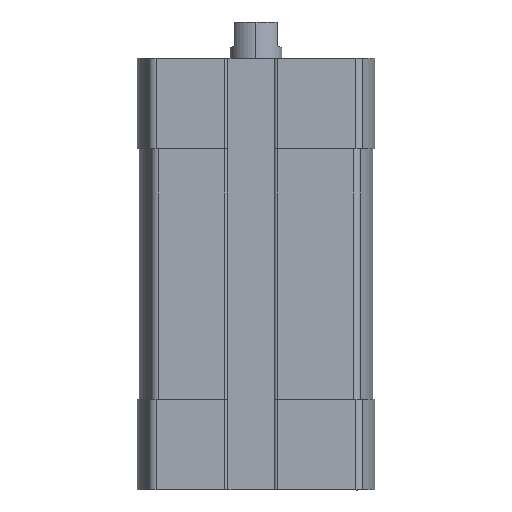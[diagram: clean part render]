
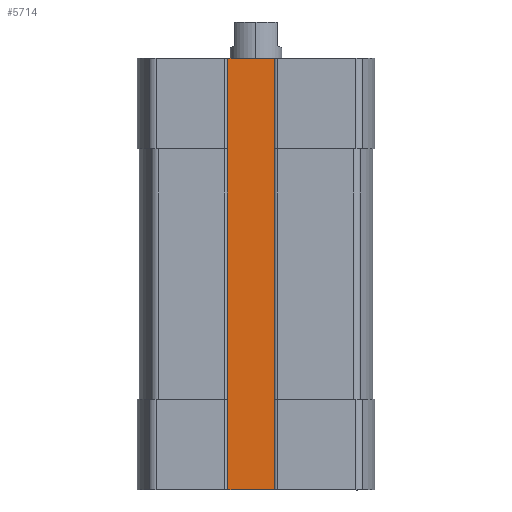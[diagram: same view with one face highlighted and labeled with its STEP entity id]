
A CAD part, left-side view. The second image highlights one B-rep face of the part: STEP entity #5714.
In plain terms, the highlighted planar face has unit normal (-1, 0, 0).
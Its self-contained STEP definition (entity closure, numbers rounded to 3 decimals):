
#193 = ORIENTED_EDGE ( 'NONE', *, *, #5346, .T. ) ;
#544 = DIRECTION ( 'NONE',  ( 0., 0., -1. ) ) ;
#912 = LINE ( 'NONE', #11198, #5379 ) ;
#1707 = EDGE_CURVE ( 'NONE', #9242, #4458, #912, .T. ) ;
#1744 = PLANE ( 'NONE',  #7921 ) ;
#1999 = LINE ( 'NONE', #2174, #6448 ) ;
#2174 = CARTESIAN_POINT ( 'NONE',  ( -8.3, 3.6, -50. ) ) ;
#3023 = LINE ( 'NONE', #6442, #7449 ) ;
#3551 = DIRECTION ( 'NONE',  ( 0., 0., 1. ) ) ;
#4169 = CARTESIAN_POINT ( 'NONE',  ( -8.3, 3.6, 0. ) ) ;
#4458 = VERTEX_POINT ( 'NONE', #5629 ) ;
#4673 = FACE_OUTER_BOUND ( 'NONE', #8105, .T. ) ;
#4725 = EDGE_CURVE ( 'NONE', #9242, #10023, #5247, .T. ) ;
#4985 = VERTEX_POINT ( 'NONE', #6200 ) ;
#5247 = LINE ( 'NONE', #10188, #6496 ) ;
#5346 = EDGE_CURVE ( 'NONE', #4985, #10023, #3023, .T. ) ;
#5379 = VECTOR ( 'NONE', #544, 1000. ) ;
#5629 = CARTESIAN_POINT ( 'NONE',  ( -8.3, 3.6, -50. ) ) ;
#5714 = ADVANCED_FACE ( 'NONE', ( #4673 ), #1744, .T. ) ;
#6200 = CARTESIAN_POINT ( 'NONE',  ( -8.3, -2.4, -50. ) ) ;
#6304 = CARTESIAN_POINT ( 'NONE',  ( -8.3, -2.4, 0. ) ) ;
#6442 = CARTESIAN_POINT ( 'NONE',  ( -8.3, -2.4, -50. ) ) ;
#6448 = VECTOR ( 'NONE', #7486, 1000. ) ;
#6496 = VECTOR ( 'NONE', #7511, 1000. ) ;
#7449 = VECTOR ( 'NONE', #10857, 1000. ) ;
#7486 = DIRECTION ( 'NONE',  ( 0., -1., 0. ) ) ;
#7511 = DIRECTION ( 'NONE',  ( 0., -1., 0. ) ) ;
#7921 = AXIS2_PLACEMENT_3D ( 'NONE', #7976, #8869, #3551 ) ;
#7976 = CARTESIAN_POINT ( 'NONE',  ( -8.3, 3.6, -50. ) ) ;
#8105 = EDGE_LOOP ( 'NONE', ( #11242, #193, #10809, #8553 ) ) ;
#8553 = ORIENTED_EDGE ( 'NONE', *, *, #1707, .T. ) ;
#8869 = DIRECTION ( 'NONE',  ( -1., 0., 0. ) ) ;
#9242 = VERTEX_POINT ( 'NONE', #4169 ) ;
#10023 = VERTEX_POINT ( 'NONE', #6304 ) ;
#10188 = CARTESIAN_POINT ( 'NONE',  ( -8.3, -2.5, 0. ) ) ;
#10809 = ORIENTED_EDGE ( 'NONE', *, *, #4725, .F. ) ;
#10857 = DIRECTION ( 'NONE',  ( 0., 0., 1. ) ) ;
#11198 = CARTESIAN_POINT ( 'NONE',  ( -8.3, 3.6, -50. ) ) ;
#11242 = ORIENTED_EDGE ( 'NONE', *, *, #11520, .T. ) ;
#11520 = EDGE_CURVE ( 'NONE', #4458, #4985, #1999, .T. ) ;
